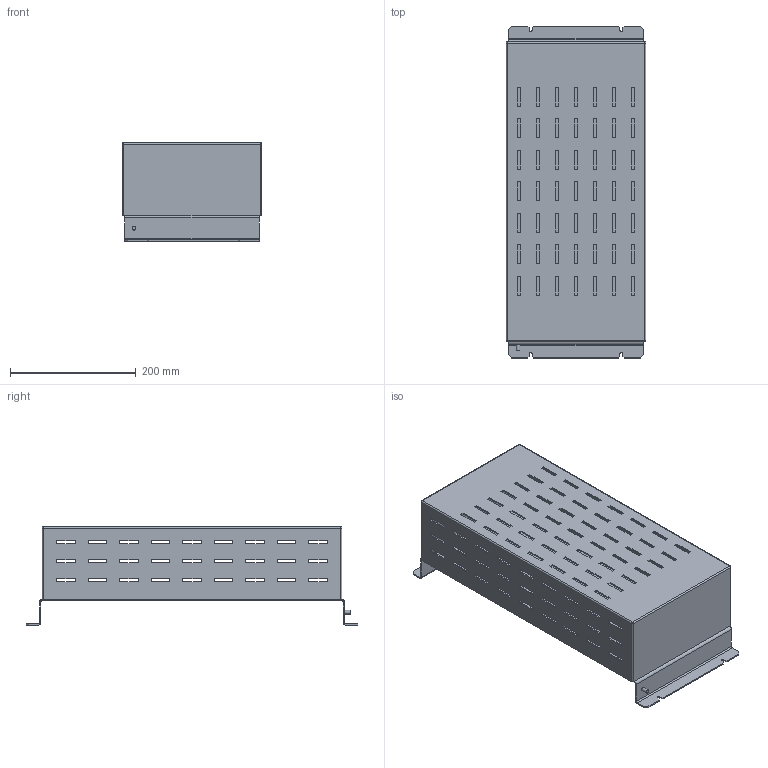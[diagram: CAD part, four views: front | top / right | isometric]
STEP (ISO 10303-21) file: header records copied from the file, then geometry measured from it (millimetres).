
FILE_DESCRIPTION(/* description */ (''),/* implementation_level */ '2;1');
FILE_NAME(/* name */ 'E:\Работа\Веда МК (Данфосс)\!Текущие задачи\2024.08.30 3D модели дросселей\Тормозные резисторы\STP\F3.stp',/* time_stamp */ '2024-09-04T07:44:08+04:00',/* author */ ('Александр (огранич)'),/* organization */ (''),/* preprocessor_version */ 'ST-DEVELOPER v18.1',/* originating_system */ 'Autodesk Inventor 2021',/* authorisation */ '');
FILE_SCHEMA (('AUTOMOTIVE_DESIGN { 1 0 10303 214 3 1 1 }'));
Length unit declared in the file: millimetre
Products named in the file (1): F1
Bounding box: 222 x 527 x 156 mm (x, y, z)
Volume: 749112 mm3; surface area: 767838.7 mm2
Topology: 1 solids, 1 shells, 504 faces, 1459 edges, 956 vertices
Faces by surface type: plane 479, cylinder 21, sphere 4
Full cylindrical faces by diameter (mm): 6 x1
Entity records: 16664 total; most frequent: CARTESIAN_POINT 2920, ORIENTED_EDGE 2918, DIRECTION 2513, EDGE_CURVE 1459, LINE 1415, VECTOR 1415, VERTEX_POINT 956, EDGE_LOOP 711
